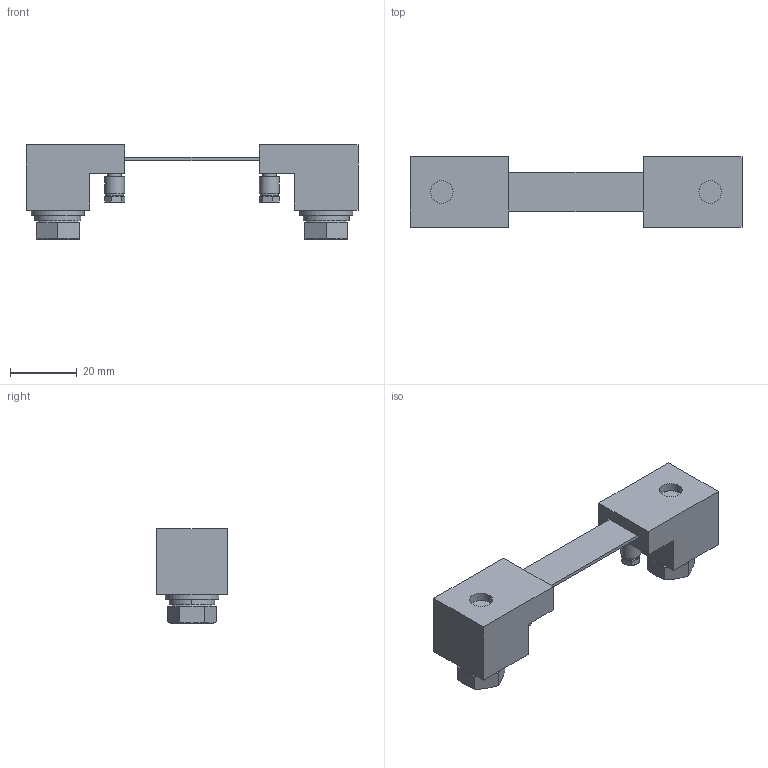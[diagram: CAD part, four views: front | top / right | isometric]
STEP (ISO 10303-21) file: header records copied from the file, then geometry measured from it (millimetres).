
FILE_DESCRIPTION (( 'STEP AP203' ), '1' );
FILE_NAME ('RTCS0050B075Z00.STEP', '2023-12-13T06:53:05', ( '' ), ( '' ), 'SwSTEP 2.0', 'SolidWorks 2022', '' );
FILE_SCHEMA (( 'CONFIG_CONTROL_DESIGN' ));
Length unit declared in the file: millimetre
Products named in the file (8): RTCS0050B075Z00; single coil lock washers light type gb_GB_FASTENER_WASHER_SSWL 3; hexagon head bolts-full thread gb_GB_FASTENER_BOLT_STBAB A M8X20-S; 电阻体; 基座（13）; single coil lock washers light type gb_GB_FASTENER_WASHER_SSWL 8; hexagon head bolts-full thread gb_GB_FASTENER_BOLT_STBAB A M3X6-S; plain washers--product grade c gb_GB_FASTENER_WASHER_SMWC 8
Assembly tree (13 placements, depth 2):
  RTCS0050B075Z00
    基座（13）  x2
    hexagon head bolts-full thread gb_GB_FASTENER_BOLT_STBAB A M3X6-S  x2
    single coil lock washers light type gb_GB_FASTENER_WASHER_SSWL 3  x2
    hexagon head bolts-full thread gb_GB_FASTENER_BOLT_STBAB A M8X20-S  x2
    plain washers--product grade c gb_GB_FASTENER_WASHER_SMWC 8  x2
    single coil lock washers light type gb_GB_FASTENER_WASHER_SSWL 8  x2
    电阻体
Bounding box: 99.3 x 21 x 28.15 mm (x, y, z)
Volume: 22826 mm3; surface area: 12879.5 mm2
Topology: 13 solids, 13 shells, 720 faces, 1512 edges, 826 vertices
Faces by surface type: cone 388, cylinder 220, plane 112
Entity records: 10564 total; most frequent: DIRECTION 1814, CARTESIAN_POINT 1728, ORIENTED_EDGE 1520, EDGE_CURVE 760, AXIS2_PLACEMENT_3D 723, VERTEX_POINT 417, EDGE_LOOP 373, LINE 368
